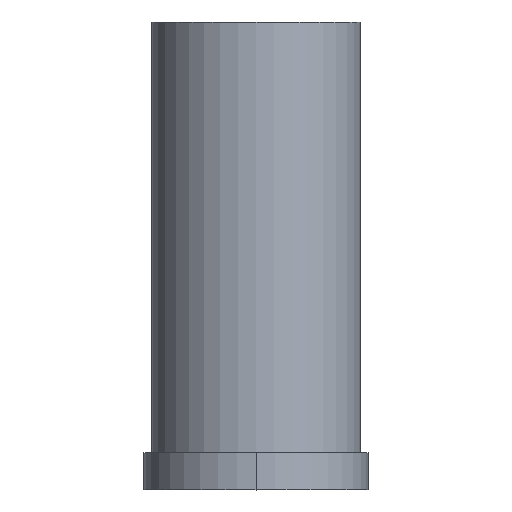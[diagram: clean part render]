
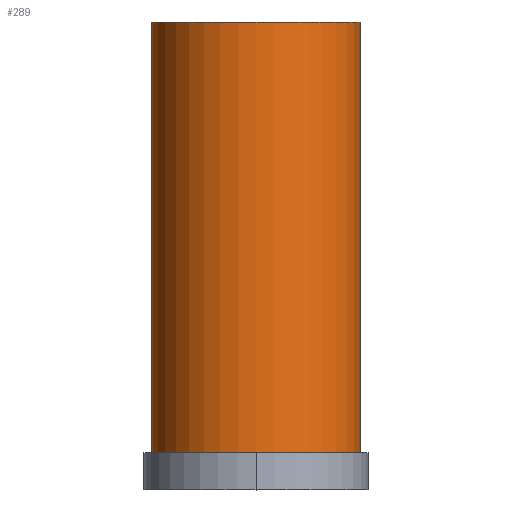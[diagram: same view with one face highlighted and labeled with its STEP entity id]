
A CAD part, top view. The second image highlights one B-rep face of the part: STEP entity #289.
In plain terms, the highlighted cylindrical face has radius 2.794 mm (diameter 5.588 mm), a partial arc.
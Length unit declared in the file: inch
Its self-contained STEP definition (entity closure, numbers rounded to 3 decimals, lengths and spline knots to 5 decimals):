
#11 = LINE ( 'NONE', #191, #98 ) ;
#54 = EDGE_CURVE ( 'NONE', #486, #339, #197, .T. ) ;
#57 = DIRECTION ( 'NONE',  ( 0., 1., 0. ) ) ;
#59 = AXIS2_PLACEMENT_3D ( 'NONE', #215, #444, #393 ) ;
#82 = ORIENTED_EDGE ( 'NONE', *, *, #54, .T. ) ;
#89 = CARTESIAN_POINT ( 'NONE',  ( 0.11, 0.492, 0. ) ) ;
#98 = VECTOR ( 'NONE', #491, 39.37008 ) ;
#132 = CARTESIAN_POINT ( 'NONE',  ( 0., 0.039, 0. ) ) ;
#144 = EDGE_LOOP ( 'NONE', ( #472, #82, #295, #402 ) ) ;
#191 = CARTESIAN_POINT ( 'NONE',  ( 0.11, 0.492, 0. ) ) ;
#193 = CARTESIAN_POINT ( 'NONE',  ( -0.11, 0.492, 0. ) ) ;
#197 = LINE ( 'NONE', #231, #322 ) ;
#215 = CARTESIAN_POINT ( 'NONE',  ( 0., 0.492, 0. ) ) ;
#224 = CYLINDRICAL_SURFACE ( 'NONE', #59, 0.11 ) ;
#227 = FACE_OUTER_BOUND ( 'NONE', #144, .T. ) ;
#231 = CARTESIAN_POINT ( 'NONE',  ( -0.11, 0.492, 0. ) ) ;
#252 = VERTEX_POINT ( 'NONE', #89 ) ;
#289 = ADVANCED_FACE ( 'NONE', ( #227 ), #224, .T. ) ;
#295 = ORIENTED_EDGE ( 'NONE', *, *, #334, .F. ) ;
#314 = CIRCLE ( 'NONE', #385, 0.11 ) ;
#322 = VECTOR ( 'NONE', #330, 39.37008 ) ;
#325 = DIRECTION ( 'NONE',  ( 1., 0., 0. ) ) ;
#329 = CARTESIAN_POINT ( 'NONE',  ( 0.11, 0.039, 0. ) ) ;
#330 = DIRECTION ( 'NONE',  ( 0., -1., 0. ) ) ;
#334 = EDGE_CURVE ( 'NONE', #346, #339, #479, .T. ) ;
#339 = VERTEX_POINT ( 'NONE', #371 ) ;
#346 = VERTEX_POINT ( 'NONE', #329 ) ;
#359 = EDGE_CURVE ( 'NONE', #252, #346, #11, .T. ) ;
#371 = CARTESIAN_POINT ( 'NONE',  ( -0.11, 0.039, 0. ) ) ;
#379 = AXIS2_PLACEMENT_3D ( 'NONE', #132, #396, #325 ) ;
#385 = AXIS2_PLACEMENT_3D ( 'NONE', #532, #57, #493 ) ;
#393 = DIRECTION ( 'NONE',  ( 1., 0., 0. ) ) ;
#396 = DIRECTION ( 'NONE',  ( 0., -1., 0. ) ) ;
#402 = ORIENTED_EDGE ( 'NONE', *, *, #359, .F. ) ;
#444 = DIRECTION ( 'NONE',  ( 0., -1., 0. ) ) ;
#472 = ORIENTED_EDGE ( 'NONE', *, *, #487, .F. ) ;
#479 = CIRCLE ( 'NONE', #379, 0.11 ) ;
#486 = VERTEX_POINT ( 'NONE', #193 ) ;
#487 = EDGE_CURVE ( 'NONE', #486, #252, #314, .T. ) ;
#491 = DIRECTION ( 'NONE',  ( 0., -1., 0. ) ) ;
#493 = DIRECTION ( 'NONE',  ( 1., 0., 0. ) ) ;
#532 = CARTESIAN_POINT ( 'NONE',  ( 0., 0.492, 0. ) ) ;
